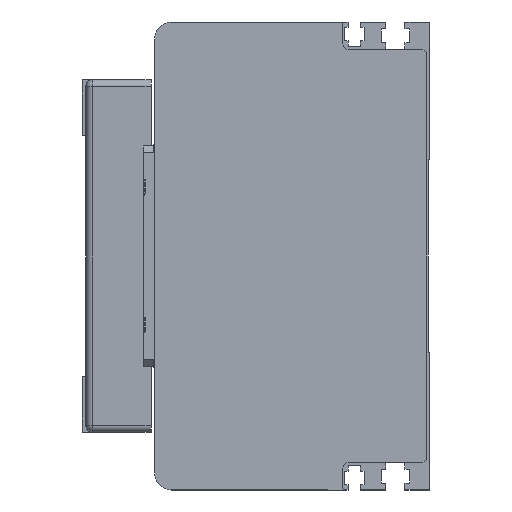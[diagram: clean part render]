
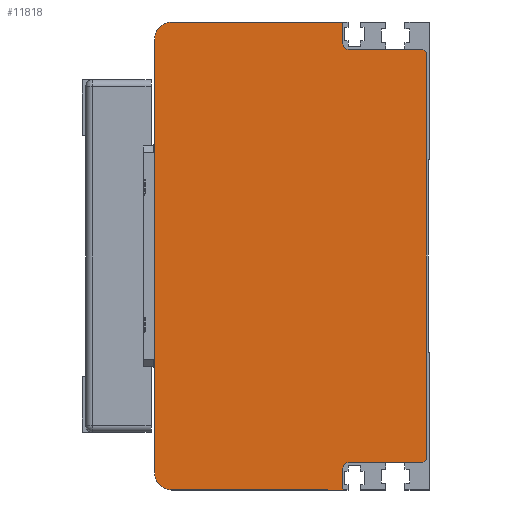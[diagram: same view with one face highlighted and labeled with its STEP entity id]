
A CAD part, left-side view. The second image highlights one B-rep face of the part: STEP entity #11818.
In plain terms, the highlighted planar face has unit normal (-1, 0, 0) as drawn and (0, 0, -1) by its records, which use the part's own axes.
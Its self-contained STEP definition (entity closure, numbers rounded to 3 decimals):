
#933=FACE_OUTER_BOUND('',#1642,.T.);
#1642=EDGE_LOOP('',(#8201,#8202,#8203,#8204,#8205,#8206,#8207,#8208,#8209,
#8210,#8211,#8212,#8213,#8214));
#2408=CIRCLE('',#12662,2.);
#2409=CIRCLE('',#12663,5.);
#2410=CIRCLE('',#12664,5.);
#2411=CIRCLE('',#12665,2.);
#2686=LINE('',#16783,#3829);
#2687=LINE('',#16785,#3830);
#2688=LINE('',#16787,#3831);
#2689=LINE('',#16789,#3832);
#2690=LINE('',#16793,#3833);
#2691=LINE('',#16795,#3834);
#2692=LINE('',#16799,#3835);
#2693=LINE('',#16803,#3836);
#2694=LINE('',#16805,#3837);
#2695=LINE('',#16808,#3838);
#3829=VECTOR('',#13833,1.414);
#3830=VECTOR('',#13834,118.);
#3831=VECTOR('',#13835,1.414);
#3832=VECTOR('',#13836,21.3);
#3833=VECTOR('',#13839,6.);
#3834=VECTOR('',#13840,49.7);
#3835=VECTOR('',#13843,126.);
#3836=VECTOR('',#13846,49.7);
#3837=VECTOR('',#13847,6.);
#3838=VECTOR('',#13850,21.3);
#5034=VERTEX_POINT('',#16781);
#5035=VERTEX_POINT('',#16782);
#5036=VERTEX_POINT('',#16784);
#5037=VERTEX_POINT('',#16786);
#5038=VERTEX_POINT('',#16788);
#5039=VERTEX_POINT('',#16790);
#5040=VERTEX_POINT('',#16792);
#5041=VERTEX_POINT('',#16794);
#5042=VERTEX_POINT('',#16796);
#5043=VERTEX_POINT('',#16798);
#5044=VERTEX_POINT('',#16800);
#5045=VERTEX_POINT('',#16802);
#5046=VERTEX_POINT('',#16804);
#5047=VERTEX_POINT('',#16806);
#6276=EDGE_CURVE('',#5034,#5035,#2686,.T.);
#6277=EDGE_CURVE('',#5034,#5036,#2687,.T.);
#6278=EDGE_CURVE('',#5037,#5036,#2688,.T.);
#6279=EDGE_CURVE('',#5037,#5038,#2689,.T.);
#6280=EDGE_CURVE('',#5039,#5038,#2408,.T.);
#6281=EDGE_CURVE('',#5039,#5040,#2690,.T.);
#6282=EDGE_CURVE('',#5040,#5041,#2691,.T.);
#6283=EDGE_CURVE('',#5041,#5042,#2409,.T.);
#6284=EDGE_CURVE('',#5042,#5043,#2692,.T.);
#6285=EDGE_CURVE('',#5043,#5044,#2410,.T.);
#6286=EDGE_CURVE('',#5044,#5045,#2693,.T.);
#6287=EDGE_CURVE('',#5045,#5046,#2694,.T.);
#6288=EDGE_CURVE('',#5047,#5046,#2411,.T.);
#6289=EDGE_CURVE('',#5047,#5035,#2695,.T.);
#8201=ORIENTED_EDGE('',*,*,#6276,.F.);
#8202=ORIENTED_EDGE('',*,*,#6277,.T.);
#8203=ORIENTED_EDGE('',*,*,#6278,.F.);
#8204=ORIENTED_EDGE('',*,*,#6279,.T.);
#8205=ORIENTED_EDGE('',*,*,#6280,.F.);
#8206=ORIENTED_EDGE('',*,*,#6281,.T.);
#8207=ORIENTED_EDGE('',*,*,#6282,.T.);
#8208=ORIENTED_EDGE('',*,*,#6283,.T.);
#8209=ORIENTED_EDGE('',*,*,#6284,.T.);
#8210=ORIENTED_EDGE('',*,*,#6285,.T.);
#8211=ORIENTED_EDGE('',*,*,#6286,.T.);
#8212=ORIENTED_EDGE('',*,*,#6287,.T.);
#8213=ORIENTED_EDGE('',*,*,#6288,.F.);
#8214=ORIENTED_EDGE('',*,*,#6289,.T.);
#11240=PLANE('',#12661);
#11818=ADVANCED_FACE('',(#933),#11240,.T.);
#12661=AXIS2_PLACEMENT_3D('',#16780,#13831,#13832);
#12662=AXIS2_PLACEMENT_3D('',#16791,#13837,#13838);
#12663=AXIS2_PLACEMENT_3D('',#16797,#13841,#13842);
#12664=AXIS2_PLACEMENT_3D('',#16801,#13844,#13845);
#12665=AXIS2_PLACEMENT_3D('',#16807,#13848,#13849);
#13831=DIRECTION('center_axis',(0.,0.,-1.));
#13832=DIRECTION('ref_axis',(0.,-1.,0.));
#13833=DIRECTION('',(0.707,0.707,0.));
#13834=DIRECTION('',(-1.,0.,0.));
#13835=DIRECTION('',(0.707,-0.707,0.));
#13836=DIRECTION('',(0.,1.,0.));
#13837=DIRECTION('center_axis',(0.,0.,-1.));
#13838=DIRECTION('ref_axis',(0.707,0.707,0.));
#13839=DIRECTION('',(-1.,0.,0.));
#13840=DIRECTION('',(0.,1.,0.));
#13841=DIRECTION('center_axis',(0.,0.,-1.));
#13842=DIRECTION('ref_axis',(-1.,0.,0.));
#13843=DIRECTION('',(1.,0.,0.));
#13844=DIRECTION('center_axis',(0.,0.,-1.));
#13845=DIRECTION('ref_axis',(0.,1.,0.));
#13846=DIRECTION('',(0.,-1.,0.));
#13847=DIRECTION('',(-1.,0.,0.));
#13848=DIRECTION('center_axis',(0.,0.,-1.));
#13849=DIRECTION('ref_axis',(-0.707,0.707,0.));
#13850=DIRECTION('',(0.,-1.,0.));
#16780=CARTESIAN_POINT('Origin',(-29.,-60.,-300.));
#16781=CARTESIAN_POINT('',(66.,-74.,-300.));
#16782=CARTESIAN_POINT('',(67.,-73.,-300.));
#16783=CARTESIAN_POINT('',(46.,-94.,-300.));
#16784=CARTESIAN_POINT('',(-52.,-74.,-300.));
#16785=CARTESIAN_POINT('',(-11.,-74.,-300.));
#16786=CARTESIAN_POINT('',(-53.,-73.,-300.));
#16787=CARTESIAN_POINT('',(-50.,-76.,-300.));
#16788=CARTESIAN_POINT('',(-53.,-51.7,-300.));
#16789=CARTESIAN_POINT('',(-53.,-67.,-300.));
#16790=CARTESIAN_POINT('',(-55.,-49.7,-300.));
#16791=CARTESIAN_POINT('Origin',(-55.,-51.7,-300.));
#16792=CARTESIAN_POINT('',(-61.,-49.7,-300.));
#16793=CARTESIAN_POINT('',(-41.,-49.7,-300.));
#16794=CARTESIAN_POINT('',(-61.,0.,-300.));
#16795=CARTESIAN_POINT('',(-61.,-51.25,-300.));
#16796=CARTESIAN_POINT('',(-56.,5.,-300.));
#16797=CARTESIAN_POINT('Origin',(-56.,0.,
-300.));
#16798=CARTESIAN_POINT('',(70.,5.,-300.));
#16799=CARTESIAN_POINT('',(-56.,5.,-300.));
#16800=CARTESIAN_POINT('',(75.,0.,-300.));
#16801=CARTESIAN_POINT('Origin',(70.,0.,
-300.));
#16802=CARTESIAN_POINT('',(75.,-49.7,-300.));
#16803=CARTESIAN_POINT('',(75.,0.,-300.));
#16804=CARTESIAN_POINT('',(69.,-49.7,-300.));
#16805=CARTESIAN_POINT('',(19.,-49.7,-300.));
#16806=CARTESIAN_POINT('',(67.,-51.7,-300.));
#16807=CARTESIAN_POINT('Origin',(69.,-51.7,-300.));
#16808=CARTESIAN_POINT('',(67.,-67.,-300.));
